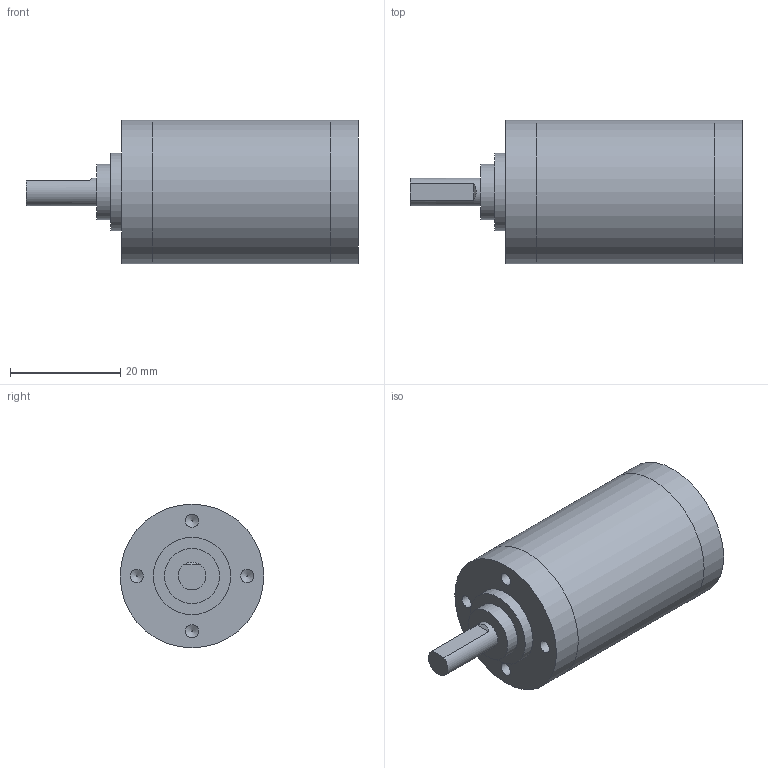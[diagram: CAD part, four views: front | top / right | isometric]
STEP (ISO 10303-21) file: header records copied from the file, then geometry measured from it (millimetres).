
FILE_DESCRIPTION(('Bauteilbeschreibung','HiCAD-Model','HiCAD-STEP-TRANSLATION','Bauteilbeschreibung'),'2;1');
FILE_NAME('P:/PRIVAT/BJA/KATOLOG_STEP_DATEIEN/GP26B/GP26B_3-STUFIG.STP','2004-12-08T13:50:40+00:00',('Konstrukteur'),('Konstrukteur Firma GmbH'),'HiCAD2 V1102 STEP 20.9.2001','HiCAD2 V1102','confidential');
FILE_SCHEMA(('AUTOMOTIVE_DESIGN { 1 2 10303 214 0 1 1 1 }'));
Length unit declared in the file: millimetre
Products named in the file (2): A01_000X; A010000X
Assembly tree (1 placements, depth 2):
  A01_000X
    A010000X
Bounding box: 60.1 x 26 x 26 mm (x, y, z)
Volume: 22645.9 mm3; surface area: 5444.6 mm2
Topology: 1 solids, 1 shells, 33 faces, 61 edges, 41 vertices
Faces by surface type: plane 15, cylinder 14, cone 4
Full cylindrical faces by diameter (mm): 2.1 x3, 2.39 x4, 5 x1, 10 x2, 14 x1, 26 x3
Entity records: 1158 total; most frequent: DIRECTION 136, CARTESIAN_POINT 103, ORIENTED_EDGE 70, COLOUR_RGB 69, PRESENTATION_STYLE_ASSIGNMENT 69, OVER_RIDING_STYLED_ITEM 68, AXIS2_PLACEMENT_3D 66, EDGE_LOOP 62
